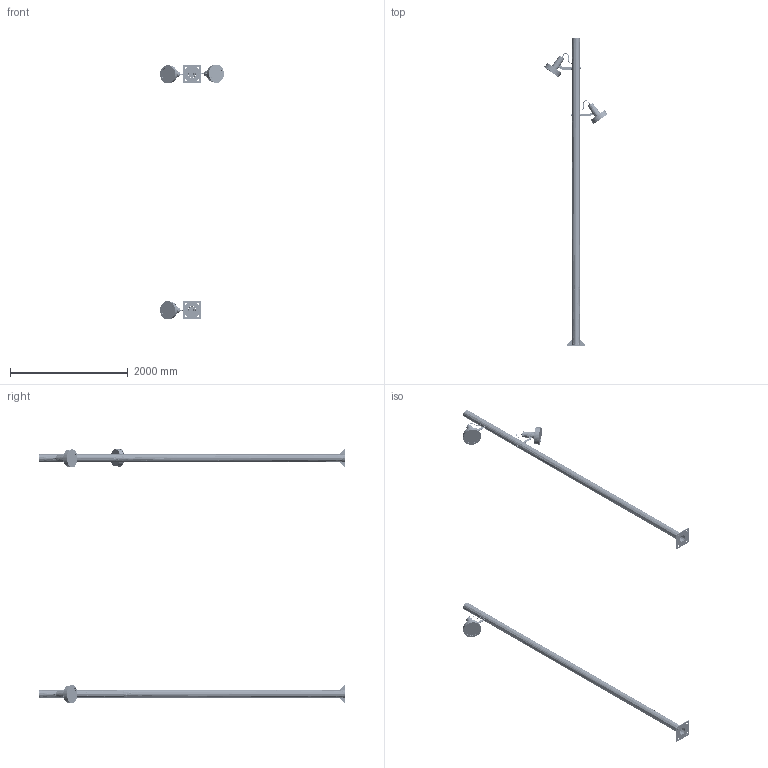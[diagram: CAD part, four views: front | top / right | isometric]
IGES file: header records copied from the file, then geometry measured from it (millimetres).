
Start section: SolidWorks IGES file using analytic representation for surfaces
Global section: file name: C:\SANTACOLE_PDM\Proyectos Catálogo\PROD-P12-019 -- ARNE PROYECTOR LED\6_Técnico comercial\3D WEB\IGES\Arne Columna 5,2m 1S 1L-Columna 5,2m 1S 2L.IGS; native system: SolidWorks 2013; preprocessor: SolidWorks 2013; author: jordi.munoz; date: 150508.101112; units: millimetre
Bounding box: 1081.89 x 5200 x 4320 mm (x, y, z)
Surface area: 10857164.1 mm2 (no closed solid volume)
Topology: 0 solids, 0 shells, 8906 faces, 78863 edges, 78343 vertices
Faces by surface type: bspline 6095, revolution 2811
